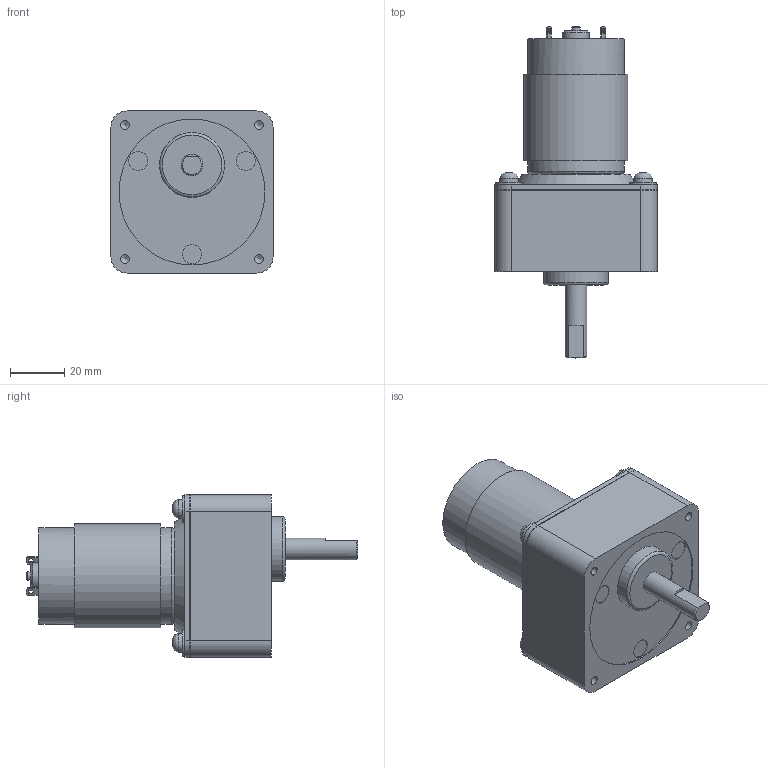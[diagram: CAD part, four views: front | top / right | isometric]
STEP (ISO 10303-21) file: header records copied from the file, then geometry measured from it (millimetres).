
FILE_DESCRIPTION(/* description */ (''),/* implementation_level */ '2;1');
FILE_NAME(/* name */ 'TP-3850#-CM-2.stp',/* time_stamp */ '2023-11-01T13:25:14+09:00',/* author */ ('user'),/* organization */ (''),/* preprocessor_version */ 'ST-DEVELOPER v19.2',/* originating_system */ 'Autodesk Inventor 2024',/* authorisation */ '');
FILE_SCHEMA (('AUTOMOTIVE_DESIGN { 1 0 10303 214 3 1 1 }'));
Length unit declared in the file: millimetre
Products named in the file (3): TP-3850#-CM-5~12.5-J00-24; cm_2; TP-3850K(RS-645)
Assembly tree (2 placements, depth 2):
  TP-3850#-CM-5~12.5-J00-24
    cm_2
    TP-3850K(RS-645)
Bounding box: 60 x 122.8 x 60 mm (x, y, z)
Volume: 178386.3 mm3; surface area: 25620.9 mm2
Topology: 2 solids, 2 shells, 158 faces, 349 edges, 230 vertices
Faces by surface type: plane 79, cylinder 55, cone 10, torus 10, bspline 4
Full cylindrical faces by diameter (mm): 1.5 x1, 2.459 x2, 2.5 x5, 3.17 x2, 3.242 x4, 6.8 x4, 7 x3, 7.4 x1, 8 x1, 9.8 x5, 11 x1, 13 x1, 24 x1, 34.8 x1, 35.8 x1, 54 x1
Entity records: 4666 total; most frequent: CARTESIAN_POINT 844, DIRECTION 820, ORIENTED_EDGE 686, EDGE_CURVE 343, AXIS2_PLACEMENT_3D 320, VERTEX_POINT 230, EDGE_LOOP 203, LINE 180
